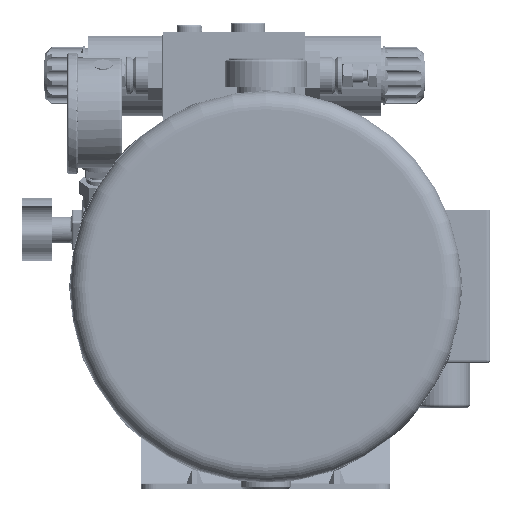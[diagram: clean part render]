
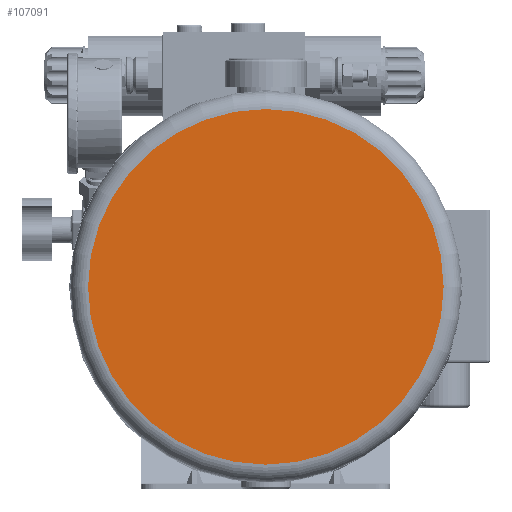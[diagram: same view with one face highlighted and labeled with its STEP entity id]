
A CAD part, left-side view. The second image highlights one B-rep face of the part: STEP entity #107091.
In plain terms, the highlighted planar face has unit normal (-1, 0, 0).
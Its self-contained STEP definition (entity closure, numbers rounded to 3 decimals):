
#21994=PLANE('',#115151);
#25920=FACE_OUTER_BOUND('',#31822,.T.);
#31822=EDGE_LOOP('',(#79371,#79372));
#38199=CIRCLE('',#115152,100.);
#38200=CIRCLE('',#115153,100.);
#46011=VERTEX_POINT('',#176989);
#46012=VERTEX_POINT('',#176990);
#58261=EDGE_CURVE('',#46011,#46012,#38199,.T.);
#58262=EDGE_CURVE('',#46012,#46011,#38200,.T.);
#79371=ORIENTED_EDGE('',*,*,#58261,.T.);
#79372=ORIENTED_EDGE('',*,*,#58262,.T.);
#107091=ADVANCED_FACE('',(#25920),#21994,.T.);
#115151=AXIS2_PLACEMENT_3D('',#176988,#134182,#134183);
#115152=AXIS2_PLACEMENT_3D('',#176991,#134184,#134185);
#115153=AXIS2_PLACEMENT_3D('',#176992,#134186,#134187);
#134182=DIRECTION('center_axis',(-1.,0.,0.));
#134183=DIRECTION('ref_axis',(0.,-1.,0.));
#134184=DIRECTION('center_axis',(-1.,0.,0.));
#134185=DIRECTION('ref_axis',(0.,-1.,0.));
#134186=DIRECTION('center_axis',(-1.,0.,0.));
#134187=DIRECTION('ref_axis',(0.,-1.,0.));
#176988=CARTESIAN_POINT('Origin',(-437.,639.235,-20.89));
#176989=CARTESIAN_POINT('',(-437.,539.235,-20.89));
#176990=CARTESIAN_POINT('',(-437.,739.235,-20.89));
#176991=CARTESIAN_POINT('Origin',(-437.,639.235,-20.89));
#176992=CARTESIAN_POINT('Origin',(-437.,639.235,-20.89));
